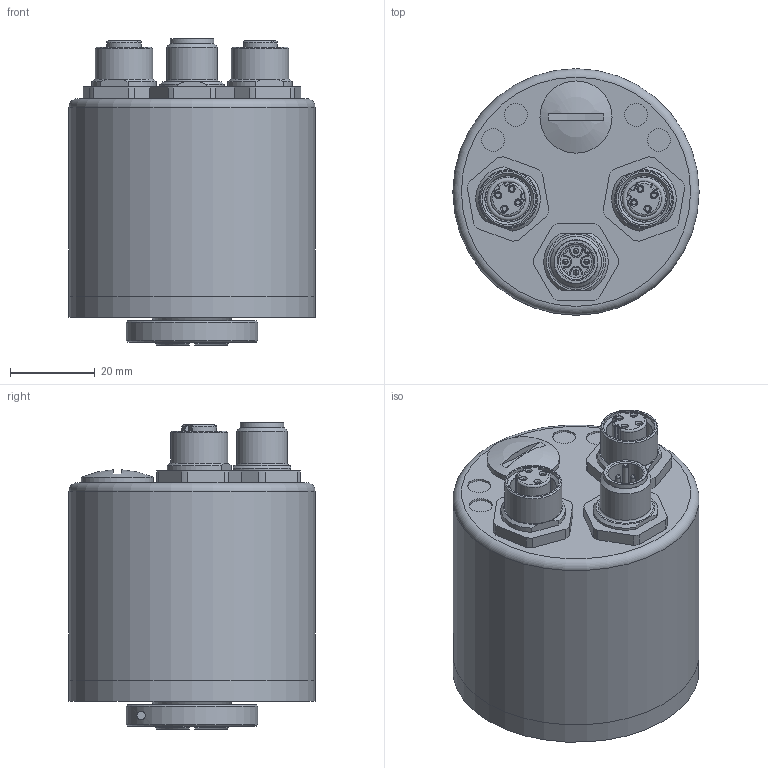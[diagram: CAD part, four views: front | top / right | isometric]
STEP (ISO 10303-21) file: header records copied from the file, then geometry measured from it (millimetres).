
FILE_DESCRIPTION( ( 'Unknown' ), '1' );
FILE_NAME( 'Z:/PJ-RD-MC/10601626_MAGRES_4/20__Produktmanagement/Datenblatt/Vereinfachte Modelle und DAB-Zeichnungen/November 2016/58/Hohlwelle/ø14/EAM580-BNE.xYxx.xxxxx.A.stp', 'Unknown', ( 'Unknown' ), ( 'Unknown' ), 'PSStep 15.0.49', 'Unknown', ' ' );
FILE_SCHEMA( ( 'AUTOMOTIVE_DESIGN { 1 0 10303 214 1 1 1 1 }' ) );
Length unit declared in the file: millimetre
Products named in the file (11): 58 H BoMo 14 vereinfacht; 11158182_vereinfacht; 11115507; 126053; 11158188 vereinfacht; 58 Haube Ethernet axial vereinfacht; 11164481 vereinfacht; 10124678; RSH4-012P4_8067A29 vereinfacht; RKH 4D_0_1 vereinfacht; Assem1
Assembly tree (11 placements, depth 3):
  Assem1
    58 Haube Ethernet axial vereinfacht
      11164481 vereinfacht
      10124678
      RSH4-012P4_8067A29 vereinfacht
      RKH 4D_0_1 vereinfacht  x2
    58 H BoMo 14 vereinfacht
      11158182_vereinfacht
      11115507
      126053
      11158188 vereinfacht
Bounding box: 58 x 58 x 72.1 mm (x, y, z)
Surface area: 39575.9 mm2 (no closed solid volume)
Topology: 0 solids, 452 shells, 452 faces, 1991 edges, 1894 vertices
Faces by surface type: plane 175, cylinder 175, torus 39, cone 38, bspline 24, sphere 1
Full cylindrical faces by diameter (mm): 1 x4, 1.1 x8, 1.3 x4, 1.9 x2, 2.013 x1, 2.5 x1, 2.6 x1, 3.242 x8, 4.5 x1, 5.4 x4, 8.3 x1, 8.6 x2, 9.338 x2, 10.9 x1, 10.92 x2, 12 x1, 12.2 x2, 12.5 x2, 13.5 x2, 14 x1, 14.522 x1, 15.2 x2, 15.5 x1, 15.8 x1, 17 x1, 19 x2, 56 x2, 58 x2
Entity records: 21148 total; most frequent: CARTESIAN_POINT 6429, DIRECTION 2734, VERTEX_POINT 1444, ORIENTED_EDGE 1442, EDGE_CURVE 1442, AXIS2_PLACEMENT_3D 1079, CIRCLE 730, LINE 576
